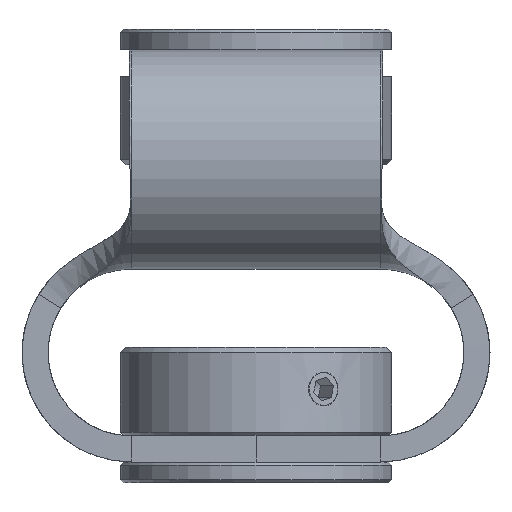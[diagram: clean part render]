
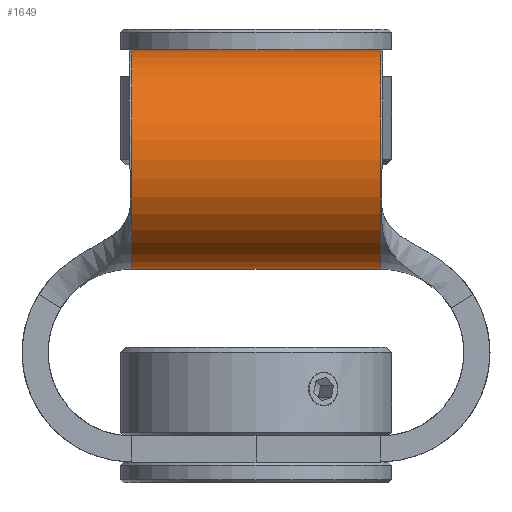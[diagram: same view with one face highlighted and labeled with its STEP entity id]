
A CAD part, front view. The second image highlights one B-rep face of the part: STEP entity #1649.
In plain terms, the highlighted cylindrical face has radius 10.5 mm (diameter 21 mm), a partial arc.
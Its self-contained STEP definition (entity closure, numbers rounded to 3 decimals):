
#160=CYLINDRICAL_SURFACE('',#1804,10.5);
#214=FACE_OUTER_BOUND('',#332,.T.);
#332=EDGE_LOOP('',(#1221,#1222,#1223,#1224));
#485=CIRCLE('',#1768,10.5);
#508=CIRCLE('',#1805,10.5);
#618=LINE('',#2715,#712);
#619=LINE('',#2718,#713);
#712=VECTOR('',#2127,23.867);
#713=VECTOR('',#2130,23.867);
#784=VERTEX_POINT('',#2577);
#785=VERTEX_POINT('',#2582);
#818=VERTEX_POINT('',#2714);
#819=VERTEX_POINT('',#2716);
#928=EDGE_CURVE('',#785,#784,#485,.T.);
#979=EDGE_CURVE('',#818,#784,#618,.T.);
#980=EDGE_CURVE('',#818,#819,#508,.T.);
#981=EDGE_CURVE('',#785,#819,#619,.T.);
#1221=ORIENTED_EDGE('',*,*,#928,.T.);
#1222=ORIENTED_EDGE('',*,*,#979,.F.);
#1223=ORIENTED_EDGE('',*,*,#980,.T.);
#1224=ORIENTED_EDGE('',*,*,#981,.F.);
#1649=ADVANCED_FACE('',(#214),#160,.T.);
#1768=AXIS2_PLACEMENT_3D('',#2583,#2028,#2029);
#1804=AXIS2_PLACEMENT_3D('',#2713,#2125,#2126);
#1805=AXIS2_PLACEMENT_3D('',#2717,#2128,#2129);
#2028=DIRECTION('center_axis',(1.,0.,0.));
#2029=DIRECTION('ref_axis',(0.,-1.,0.));
#2125=DIRECTION('center_axis',(-1.,0.,0.));
#2126=DIRECTION('ref_axis',(0.,-1.,0.));
#2127=DIRECTION('',(-1.,0.,0.));
#2128=DIRECTION('center_axis',(-1.,0.,0.));
#2129=DIRECTION('ref_axis',(0.,-1.,0.));
#2130=DIRECTION('',(1.,0.,0.));
#2577=CARTESIAN_POINT('',(35.5,-16.867,0.));
#2582=CARTESIAN_POINT('',(35.5,-16.867,21.));
#2583=CARTESIAN_POINT('Origin',(35.5,-16.867,10.5));
#2713=CARTESIAN_POINT('Origin',(47.434,-16.867,10.5));
#2714=CARTESIAN_POINT('',(59.367,-16.867,0.));
#2715=CARTESIAN_POINT('',(41.934,-16.867,0.));
#2716=CARTESIAN_POINT('',(59.367,-16.867,21.));
#2717=CARTESIAN_POINT('Origin',(59.367,-16.867,10.5));
#2718=CARTESIAN_POINT('',(41.934,-16.867,21.));
